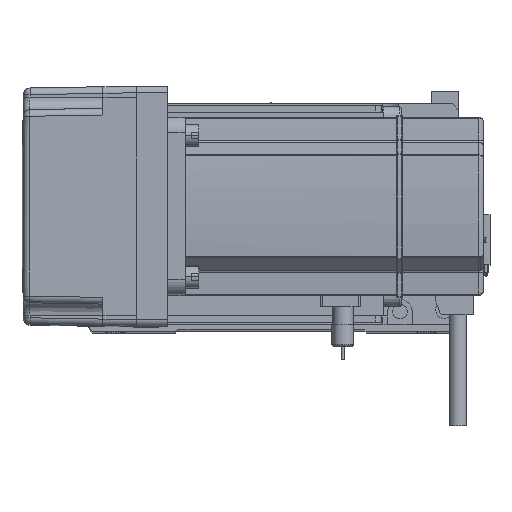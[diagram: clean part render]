
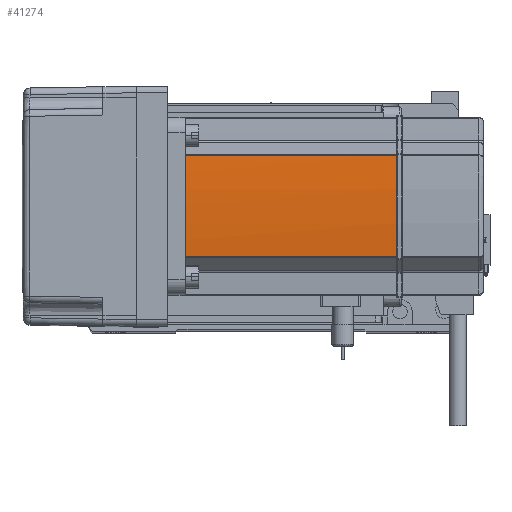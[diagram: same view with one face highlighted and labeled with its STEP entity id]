
A CAD part, top view. The second image highlights one B-rep face of the part: STEP entity #41274.
In plain terms, the highlighted cylindrical face has radius 270 mm (diameter 540 mm), a partial arc.
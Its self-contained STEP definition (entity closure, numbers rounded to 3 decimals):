
#877 = AXIS2_PLACEMENT_3D ( 'NONE', #47284, #47472, #21488 ) ;
#3692 = ORIENTED_EDGE ( 'NONE', *, *, #48419, .T. ) ;
#8977 = CARTESIAN_POINT ( 'NONE',  ( 40., -0.042, 134. ) ) ;
#9561 = CARTESIAN_POINT ( 'NONE',  ( 39.042, 22.724, 134. ) ) ;
#12008 = CARTESIAN_POINT ( 'NONE',  ( 39.042, -22.724, 39. ) ) ;
#12185 = EDGE_CURVE ( 'NONE', #18494, #49118, #14701, .T. ) ;
#13260 = CARTESIAN_POINT ( 'NONE',  ( 39.042, -22.724, 134. ) ) ;
#13568 = EDGE_LOOP ( 'NONE', ( #45857, #14525, #26202, #3692, #24661, #26359 ) ) ;
#14525 = ORIENTED_EDGE ( 'NONE', *, *, #44850, .F. ) ;
#14701 = CIRCLE ( 'NONE', #877, 270. ) ;
#15435 = B_SPLINE_CURVE_WITH_KNOTS ( 'NONE', 3,
 ( #20837, #8977, #52256, #24052 ),
 .UNSPECIFIED., .F., .F.,
 ( 4, 4 ),
 ( 0., 1. ),
 .UNSPECIFIED. ) ;
#17514 = EDGE_CURVE ( 'NONE', #18494, #38945, #15435, .T. ) ;
#17534 = DIRECTION ( 'NONE',  ( 0., 0., -1. ) ) ;
#18343 = AXIS2_PLACEMENT_3D ( 'NONE', #38949, #17534, #51942 ) ;
#18415 = VERTEX_POINT ( 'NONE', #35195 ) ;
#18494 = VERTEX_POINT ( 'NONE', #22966 ) ;
#19574 = DIRECTION ( 'NONE',  ( 0., 0., -1. ) ) ;
#20837 = CARTESIAN_POINT ( 'NONE',  ( 40., -0.127, 134. ) ) ;
#20966 = AXIS2_PLACEMENT_3D ( 'NONE', #32968, #32775, #45526 ) ;
#21488 = DIRECTION ( 'NONE',  ( -1., 0., 0. ) ) ;
#22966 = CARTESIAN_POINT ( 'NONE',  ( 40., -0.127, 134. ) ) ;
#24052 = CARTESIAN_POINT ( 'NONE',  ( 40., 0.127, 134. ) ) ;
#24661 = ORIENTED_EDGE ( 'NONE', *, *, #17514, .F. ) ;
#24891 = VERTEX_POINT ( 'NONE', #12008 ) ;
#25095 = VECTOR ( 'NONE', #43228, 1000. ) ;
#26202 = ORIENTED_EDGE ( 'NONE', *, *, #28425, .T. ) ;
#26359 = ORIENTED_EDGE ( 'NONE', *, *, #12185, .T. ) ;
#27618 = LINE ( 'NONE', #29043, #54284 ) ;
#28425 = EDGE_CURVE ( 'NONE', #18415, #43796, #36527, .T. ) ;
#29043 = CARTESIAN_POINT ( 'NONE',  ( 39.042, -22.724, 58. ) ) ;
#32775 = DIRECTION ( 'NONE',  ( 0., 0., -1. ) ) ;
#32791 = FACE_OUTER_BOUND ( 'NONE', #13568, .T. ) ;
#32968 = CARTESIAN_POINT ( 'NONE',  ( -230., 0., 58. ) ) ;
#33348 = DIRECTION ( 'NONE',  ( 0., 0., -1. ) ) ;
#34730 = CIRCLE ( 'NONE', #18343, 270. ) ;
#35195 = CARTESIAN_POINT ( 'NONE',  ( 39.042, 22.724, 39. ) ) ;
#36527 = LINE ( 'NONE', #51520, #25095 ) ;
#38945 = VERTEX_POINT ( 'NONE', #42008 ) ;
#38949 = CARTESIAN_POINT ( 'NONE',  ( -230., 0., 134. ) ) ;
#39184 = CIRCLE ( 'NONE', #55332, 270. ) ;
#41274 = ADVANCED_FACE ( 'NONE', ( #32791 ), #44831, .T. ) ;
#41748 = CARTESIAN_POINT ( 'NONE',  ( -230., 0., 39. ) ) ;
#42008 = CARTESIAN_POINT ( 'NONE',  ( 40., 0.127, 134. ) ) ;
#43228 = DIRECTION ( 'NONE',  ( 0., 0., 1. ) ) ;
#43590 = EDGE_CURVE ( 'NONE', #49118, #24891, #27618, .T. ) ;
#43796 = VERTEX_POINT ( 'NONE', #9561 ) ;
#44831 = CYLINDRICAL_SURFACE ( 'NONE', #20966, 270. ) ;
#44850 = EDGE_CURVE ( 'NONE', #18415, #24891, #39184, .T. ) ;
#45526 = DIRECTION ( 'NONE',  ( -1., 0., 0. ) ) ;
#45857 = ORIENTED_EDGE ( 'NONE', *, *, #43590, .T. ) ;
#47284 = CARTESIAN_POINT ( 'NONE',  ( -230., 0., 134. ) ) ;
#47472 = DIRECTION ( 'NONE',  ( 0., 0., -1. ) ) ;
#48419 = EDGE_CURVE ( 'NONE', #43796, #38945, #34730, .T. ) ;
#49118 = VERTEX_POINT ( 'NONE', #13260 ) ;
#50425 = DIRECTION ( 'NONE',  ( -1., 0., 0. ) ) ;
#51520 = CARTESIAN_POINT ( 'NONE',  ( 39.042, 22.724, 58. ) ) ;
#51942 = DIRECTION ( 'NONE',  ( -1., 0., 0. ) ) ;
#52256 = CARTESIAN_POINT ( 'NONE',  ( 40., 0.042, 134. ) ) ;
#54284 = VECTOR ( 'NONE', #33348, 1000. ) ;
#55332 = AXIS2_PLACEMENT_3D ( 'NONE', #41748, #19574, #50425 ) ;
